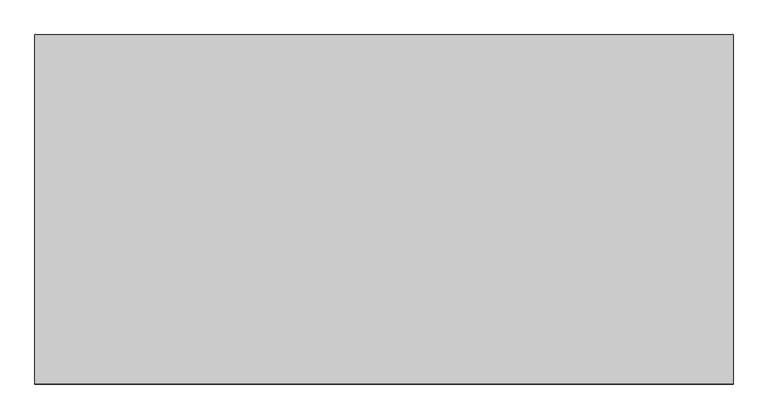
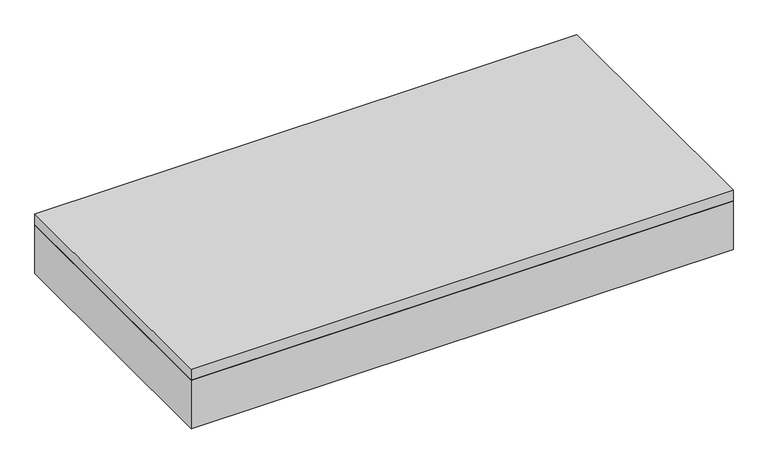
"""IFC4 building model written with IfcOpenShell, lengths in millimetres: light fixture geometry, M_Encastré-Rectangulaire parabolique : 0600 x 1200 mm (2 lampes)."""

from ifc_helpers import new_model, si_unit, frame, origin, place, context, project, spatial, polyline, outline, extrude, source, transform, mapped, element, save


def light_fixture_e156559b(model_context):
    return source(origin(), model_context, "Body", "SweptSolid", [
        extrude(outline(polyline([(565.4964984, 219.9340679), (565.4964984, -338.8659321), (-602.9035016, -338.8659321), (-602.9035016, 219.9340679), (565.4964984, 219.9340679)]), holes=[polyline([(-409.2285016, 35.7840679), (-409.2285016, 213.5840679), (-596.5535016, 213.5840679), (-596.5535016, 35.7840679), (-409.2285016, 35.7840679)]), polyline([(-409.2285016, -148.3659321), (-409.2285016, 29.4340679), (-596.5535016, 29.4340679), (-596.5535016, -148.3659321), (-409.2285016, -148.3659321)]), polyline([(-409.2285016, -154.7159321), (-596.5535016, -154.7159321), (-596.5535016, -332.5159321), (-409.2285016, -332.5159321), (-409.2285016, -154.7159321)]), polyline([(-215.5535016, 35.7840679), (-215.5535016, 213.5840679), (-402.8785016, 213.5840679), (-402.8785016, 35.7840679), (-215.5535016, 35.7840679)]), polyline([(-215.5535016, -148.3659321), (-215.5535016, 29.4340679), (-402.8785016, 29.4340679), (-402.8785016, -148.3659321), (-215.5535016, -148.3659321)]), polyline([(-215.5535016, -154.7159321), (-402.8785016, -154.7159321), (-402.8785016, -332.5159321), (-215.5535016, -332.5159321), (-215.5535016, -154.7159321)]), polyline([(-21.8785016, 35.7840679), (-21.8785016, 213.5840679), (-209.2035016, 213.5840679), (-209.2035016, 35.7840679), (-21.8785016, 35.7840679)]), polyline([(-21.8785016, -148.3659321), (-21.8785016, 29.4340679), (-209.2035016, 29.4340679), (-209.2035016, -148.3659321), (-21.8785016, -148.3659321)]), polyline([(-21.8785016, -154.7159321), (-209.2035016, -154.7159321), (-209.2035016, -332.5159321), (-21.8785016, -332.5159321), (-21.8785016, -154.7159321)]), polyline([(171.7964984, 35.7840679), (171.7964984, 213.5840679), (-15.5285016, 213.5840679), (-15.5285016, 35.7840679), (171.7964984, 35.7840679)]), polyline([(171.7964984, -148.3659321), (171.7964984, 29.4340679), (-15.5285016, 29.4340679), (-15.5285016, -148.3659321), (171.7964984, -148.3659321)]), polyline([(171.7964984, -154.7159321), (-15.5285016, -154.7159321), (-15.5285016, -332.5159321), (171.7964984, -332.5159321), (171.7964984, -154.7159321)]), polyline([(365.4714984, 35.7840679), (365.4714984, 213.5840679), (178.1464984, 213.5840679), (178.1464984, 35.7840679), (365.4714984, 35.7840679)]), polyline([(365.4714984, -148.3659321), (365.4714984, 29.4340679), (178.1464984, 29.4340679), (178.1464984, -148.3659321), (365.4714984, -148.3659321)]), polyline([(365.4714984, -154.7159321), (178.1464984, -154.7159321), (178.1464984, -332.5159321), (365.4714984, -332.5159321), (365.4714984, -154.7159321)]), polyline([(559.1464984, 35.7840679), (559.1464984, 213.5840679), (371.8214984, 213.5840679), (371.8214984, 35.7840679), (559.1464984, 35.7840679)]), polyline([(559.1464984, -148.3659321), (559.1464984, 29.4340679), (371.8214984, 29.4340679), (371.8214984, -148.3659321), (559.1464984, -148.3659321)]), polyline([(559.1464984, -154.7159321), (371.8214984, -154.7159321), (371.8214984, -332.5159321), (559.1464984, -332.5159321), (559.1464984, -154.7159321)])]), frame((0.0, 0.0, 2438.4), z_axis=(0.0, 0.0, 1.0), x_axis=(1.0, 0.0, 0.0)), (0.0, 0.0, 1.0), 3.175),
        extrude(outline(polyline([(555.8964984, 215.1340679), (555.8964984, -334.0659321), (-593.3035016, -334.0659321), (-593.3035016, 215.1340679), (555.8964984, 215.1340679)])), frame((0.0, 0.0, 2514.6), z_axis=(0.0, 0.0, 1.0), x_axis=(1.0, 0.0, 0.0)), (0.0, 0.0, 1.0), 6.35),
        extrude(outline(polyline([(565.4964984, 219.9340679), (565.4964984, -338.8659321), (-602.9035016, -338.8659321), (-602.9035016, 219.9340679), (565.4964984, 219.9340679)]), holes=[polyline([(-409.2285016, 35.7840679), (-409.2285016, 213.5840679), (-596.5535016, 213.5840679), (-596.5535016, 35.7840679), (-409.2285016, 35.7840679)]), polyline([(-409.2285016, -148.3659321), (-409.2285016, 29.4340679), (-596.5535016, 29.4340679), (-596.5535016, -148.3659321), (-409.2285016, -148.3659321)]), polyline([(-409.2285016, -154.7159321), (-596.5535016, -154.7159321), (-596.5535016, -332.5159321), (-409.2285016, -332.5159321), (-409.2285016, -154.7159321)]), polyline([(-215.5535016, 35.7840679), (-215.5535016, 213.5840679), (-402.8785016, 213.5840679), (-402.8785016, 35.7840679), (-215.5535016, 35.7840679)]), polyline([(-215.5535016, -148.3659321), (-215.5535016, 29.4340679), (-402.8785016, 29.4340679), (-402.8785016, -148.3659321), (-215.5535016, -148.3659321)]), polyline([(-215.5535016, -154.7159321), (-402.8785016, -154.7159321), (-402.8785016, -332.5159321), (-215.5535016, -332.5159321), (-215.5535016, -154.7159321)]), polyline([(-21.8785016, 35.7840679), (-21.8785016, 213.5840679), (-209.2035016, 213.5840679), (-209.2035016, 35.7840679), (-21.8785016, 35.7840679)]), polyline([(-21.8785016, -148.3659321), (-21.8785016, 29.4340679), (-209.2035016, 29.4340679), (-209.2035016, -148.3659321), (-21.8785016, -148.3659321)]), polyline([(-21.8785016, -154.7159321), (-209.2035016, -154.7159321), (-209.2035016, -332.5159321), (-21.8785016, -332.5159321), (-21.8785016, -154.7159321)]), polyline([(171.7964984, 35.7840679), (171.7964984, 213.5840679), (-15.5285016, 213.5840679), (-15.5285016, 35.7840679), (171.7964984, 35.7840679)]), polyline([(171.7964984, -148.3659321), (171.7964984, 29.4340679), (-15.5285016, 29.4340679), (-15.5285016, -148.3659321), (171.7964984, -148.3659321)]), polyline([(171.7964984, -154.7159321), (-15.5285016, -154.7159321), (-15.5285016, -332.5159321), (171.7964984, -332.5159321), (171.7964984, -154.7159321)]), polyline([(365.4714984, 35.7840679), (365.4714984, 213.5840679), (178.1464984, 213.5840679), (178.1464984, 35.7840679), (365.4714984, 35.7840679)]), polyline([(365.4714984, -148.3659321), (365.4714984, 29.4340679), (178.1464984, 29.4340679), (178.1464984, -148.3659321), (365.4714984, -148.3659321)]), polyline([(365.4714984, -154.7159321), (178.1464984, -154.7159321), (178.1464984, -332.5159321), (365.4714984, -332.5159321), (365.4714984, -154.7159321)]), polyline([(559.1464984, 35.7840679), (559.1464984, 213.5840679), (371.8214984, 213.5840679), (371.8214984, 35.7840679), (559.1464984, 35.7840679)]), polyline([(559.1464984, -148.3659321), (559.1464984, 29.4340679), (371.8214984, 29.4340679), (371.8214984, -148.3659321), (559.1464984, -148.3659321)]), polyline([(559.1464984, -154.7159321), (371.8214984, -154.7159321), (371.8214984, -332.5159321), (559.1464984, -332.5159321), (559.1464984, -154.7159321)])]), frame((0.0, 0.0, 2441.575), z_axis=(0.0, 0.0, 1.0), x_axis=(1.0, 0.0, 0.0)), (0.0, 0.0, 1.0), 47.625),
        extrude(outline(polyline([(581.2964984, 240.5340679), (581.2964984, -359.4659321), (-618.7035016, -359.4659321), (-618.7035016, 240.5340679), (581.2964984, 240.5340679)]), holes=[polyline([(555.8964984, 215.1340679), (-593.3035016, 215.1340679), (-593.3035016, -334.0659321), (555.8964984, -334.0659321), (555.8964984, 215.1340679)])]), frame((0.0, 0.0, 2438.4), z_axis=(0.0, 0.0, 1.0), x_axis=(1.0, 0.0, 0.0)), (0.0, 0.0, 1.0), 114.3),
        extrude(outline(polyline([(581.2964984, 240.5340679), (581.2964984, -359.4659321), (-618.7035016, -359.4659321), (-618.7035016, 240.5340679), (581.2964984, 240.5340679)])), frame((0.0, 0.0, 2552.7), z_axis=(0.0, 0.0, 1.0), x_axis=(1.0, 0.0, 0.0)), (0.0, 0.0, 1.0), 25.4),
    ])


if __name__ == "__main__":
    model = new_model("IFC4")
    model_context = context("Model", 3, world=origin())
    ifc_project = project(units=[si_unit("LENGTHUNIT", "METRE", prefix="MILLI")], contexts=[model_context])
    site = spatial("IfcSite", under=ifc_project)
    building = spatial("IfcBuilding", under=site)
    placement = place(None, origin())
    light_fixture_shape = light_fixture_e156559b(model_context)
    element("IfcLightFixture", 1, ObjectType="M_Encastré-Rectangulaire parabolique : 0600 x 1200 mm (2 lampes)", at=placement, inside=building, context=model_context, shape_type="MappedRepresentation", body=[
        mapped(light_fixture_shape, transform((0.0, 0.0, 0.0), x_axis=(1.0, 0.0, 0.0), y_axis=(0.0, 1.0, 0.0), z_axis=(0.0, 0.0, 1.0))),
    ])
    save(model, "model.ifc")
